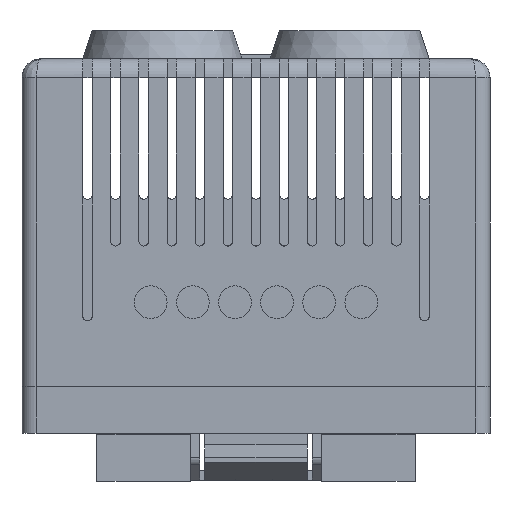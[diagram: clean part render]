
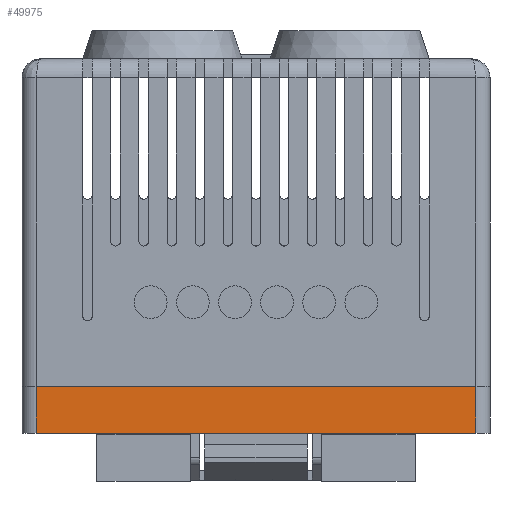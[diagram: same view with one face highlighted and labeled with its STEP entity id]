
A CAD part, front view. The second image highlights one B-rep face of the part: STEP entity #49975.
In plain terms, the highlighted planar face has unit normal (0, -1, 0).
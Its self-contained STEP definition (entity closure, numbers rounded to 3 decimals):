
#49975 = ADVANCED_FACE('',(#49976),#49990,.T.);
#49976 = FACE_BOUND('',#49977,.T.);
#49977 = EDGE_LOOP('',(#49978,#50013,#50041,#50069));
#49978 = ORIENTED_EDGE('',*,*,#49979,.F.);
#49979 = EDGE_CURVE('',#49980,#49982,#49984,.T.);
#49980 = VERTEX_POINT('',#49981);
#49981 = CARTESIAN_POINT('',(-23.5,-33.5,0.));
#49982 = VERTEX_POINT('',#49983);
#49983 = CARTESIAN_POINT('',(23.5,-33.5,0.));
#49984 = SURFACE_CURVE('',#49985,(#49989,#50001),.PCURVE_S1.);
#49985 = LINE('',#49986,#49987);
#49986 = CARTESIAN_POINT('',(-25.,-33.5,0.));
#49987 = VECTOR('',#49988,1.);
#49988 = DIRECTION('',(1.,0.,0.));
#49989 = PCURVE('',#49990,#49995);
#49990 = PLANE('',#49991);
#49991 = AXIS2_PLACEMENT_3D('',#49992,#49993,#49994);
#49992 = CARTESIAN_POINT('',(-25.,-33.5,0.));
#49993 = DIRECTION('',(0.,-1.,0.));
#49994 = DIRECTION('',(1.,0.,0.));
#49995 = DEFINITIONAL_REPRESENTATION('',(#49996),#50000);
#49996 = LINE('',#49997,#49998);
#49997 = CARTESIAN_POINT('',(0.,0.));
#49998 = VECTOR('',#49999,1.);
#49999 = DIRECTION('',(1.,0.));
#50000 = ( GEOMETRIC_REPRESENTATION_CONTEXT(2) 
PARAMETRIC_REPRESENTATION_CONTEXT() REPRESENTATION_CONTEXT('2D SPACE',''
  ) );
#50001 = PCURVE('',#50002,#50007);
#50002 = PLANE('',#50003);
#50003 = AXIS2_PLACEMENT_3D('',#50004,#50005,#50006);
#50004 = CARTESIAN_POINT('',(0.,0.,0.));
#50005 = DIRECTION('',(0.,0.,1.));
#50006 = DIRECTION('',(1.,0.,0.));
#50007 = DEFINITIONAL_REPRESENTATION('',(#50008),#50012);
#50008 = LINE('',#50009,#50010);
#50009 = CARTESIAN_POINT('',(-25.,-33.5));
#50010 = VECTOR('',#50011,1.);
#50011 = DIRECTION('',(1.,0.));
#50012 = ( GEOMETRIC_REPRESENTATION_CONTEXT(2) 
PARAMETRIC_REPRESENTATION_CONTEXT() REPRESENTATION_CONTEXT('2D SPACE',''
  ) );
#50013 = ORIENTED_EDGE('',*,*,#50014,.T.);
#50014 = EDGE_CURVE('',#49980,#50015,#50017,.T.);
#50015 = VERTEX_POINT('',#50016);
#50016 = CARTESIAN_POINT('',(-23.5,-33.5,-5.));
#50017 = SURFACE_CURVE('',#50018,(#50022,#50029),.PCURVE_S1.);
#50018 = LINE('',#50019,#50020);
#50019 = CARTESIAN_POINT('',(-23.5,-33.5,0.));
#50020 = VECTOR('',#50021,1.);
#50021 = DIRECTION('',(-0.,-0.,-1.));
#50022 = PCURVE('',#49990,#50023);
#50023 = DEFINITIONAL_REPRESENTATION('',(#50024),#50028);
#50024 = LINE('',#50025,#50026);
#50025 = CARTESIAN_POINT('',(1.5,0.));
#50026 = VECTOR('',#50027,1.);
#50027 = DIRECTION('',(0.,-1.));
#50028 = ( GEOMETRIC_REPRESENTATION_CONTEXT(2) 
PARAMETRIC_REPRESENTATION_CONTEXT() REPRESENTATION_CONTEXT('2D SPACE',''
  ) );
#50029 = PCURVE('',#50030,#50035);
#50030 = CYLINDRICAL_SURFACE('',#50031,1.5);
#50031 = AXIS2_PLACEMENT_3D('',#50032,#50033,#50034);
#50032 = CARTESIAN_POINT('',(-23.5,-32.,0.));
#50033 = DIRECTION('',(-0.,-0.,-1.));
#50034 = DIRECTION('',(0.,-1.,0.));
#50035 = DEFINITIONAL_REPRESENTATION('',(#50036),#50040);
#50036 = LINE('',#50037,#50038);
#50037 = CARTESIAN_POINT('',(0.,0.));
#50038 = VECTOR('',#50039,1.);
#50039 = DIRECTION('',(0.,1.));
#50040 = ( GEOMETRIC_REPRESENTATION_CONTEXT(2) 
PARAMETRIC_REPRESENTATION_CONTEXT() REPRESENTATION_CONTEXT('2D SPACE',''
  ) );
#50041 = ORIENTED_EDGE('',*,*,#50042,.T.);
#50042 = EDGE_CURVE('',#50015,#50043,#50045,.T.);
#50043 = VERTEX_POINT('',#50044);
#50044 = CARTESIAN_POINT('',(23.5,-33.5,-5.));
#50045 = SURFACE_CURVE('',#50046,(#50050,#50057),.PCURVE_S1.);
#50046 = LINE('',#50047,#50048);
#50047 = CARTESIAN_POINT('',(-25.,-33.5,-5.));
#50048 = VECTOR('',#50049,1.);
#50049 = DIRECTION('',(1.,0.,0.));
#50050 = PCURVE('',#49990,#50051);
#50051 = DEFINITIONAL_REPRESENTATION('',(#50052),#50056);
#50052 = LINE('',#50053,#50054);
#50053 = CARTESIAN_POINT('',(0.,-5.));
#50054 = VECTOR('',#50055,1.);
#50055 = DIRECTION('',(1.,0.));
#50056 = ( GEOMETRIC_REPRESENTATION_CONTEXT(2) 
PARAMETRIC_REPRESENTATION_CONTEXT() REPRESENTATION_CONTEXT('2D SPACE',''
  ) );
#50057 = PCURVE('',#50058,#50063);
#50058 = PLANE('',#50059);
#50059 = AXIS2_PLACEMENT_3D('',#50060,#50061,#50062);
#50060 = CARTESIAN_POINT('',(0.,0.,-5.));
#50061 = DIRECTION('',(0.,0.,1.));
#50062 = DIRECTION('',(1.,0.,0.));
#50063 = DEFINITIONAL_REPRESENTATION('',(#50064),#50068);
#50064 = LINE('',#50065,#50066);
#50065 = CARTESIAN_POINT('',(-25.,-33.5));
#50066 = VECTOR('',#50067,1.);
#50067 = DIRECTION('',(1.,0.));
#50068 = ( GEOMETRIC_REPRESENTATION_CONTEXT(2) 
PARAMETRIC_REPRESENTATION_CONTEXT() REPRESENTATION_CONTEXT('2D SPACE',''
  ) );
#50069 = ORIENTED_EDGE('',*,*,#50070,.F.);
#50070 = EDGE_CURVE('',#49982,#50043,#50071,.T.);
#50071 = SURFACE_CURVE('',#50072,(#50076,#50083),.PCURVE_S1.);
#50072 = LINE('',#50073,#50074);
#50073 = CARTESIAN_POINT('',(23.5,-33.5,0.));
#50074 = VECTOR('',#50075,1.);
#50075 = DIRECTION('',(-0.,-0.,-1.));
#50076 = PCURVE('',#49990,#50077);
#50077 = DEFINITIONAL_REPRESENTATION('',(#50078),#50082);
#50078 = LINE('',#50079,#50080);
#50079 = CARTESIAN_POINT('',(48.5,0.));
#50080 = VECTOR('',#50081,1.);
#50081 = DIRECTION('',(0.,-1.));
#50082 = ( GEOMETRIC_REPRESENTATION_CONTEXT(2) 
PARAMETRIC_REPRESENTATION_CONTEXT() REPRESENTATION_CONTEXT('2D SPACE',''
  ) );
#50083 = PCURVE('',#50084,#50089);
#50084 = CYLINDRICAL_SURFACE('',#50085,1.5);
#50085 = AXIS2_PLACEMENT_3D('',#50086,#50087,#50088);
#50086 = CARTESIAN_POINT('',(23.5,-32.,0.));
#50087 = DIRECTION('',(-0.,-0.,-1.));
#50088 = DIRECTION('',(0.,-1.,0.));
#50089 = DEFINITIONAL_REPRESENTATION('',(#50090),#50094);
#50090 = LINE('',#50091,#50092);
#50091 = CARTESIAN_POINT('',(-0.,0.));
#50092 = VECTOR('',#50093,1.);
#50093 = DIRECTION('',(-0.,1.));
#50094 = ( GEOMETRIC_REPRESENTATION_CONTEXT(2) 
PARAMETRIC_REPRESENTATION_CONTEXT() REPRESENTATION_CONTEXT('2D SPACE',''
  ) );
